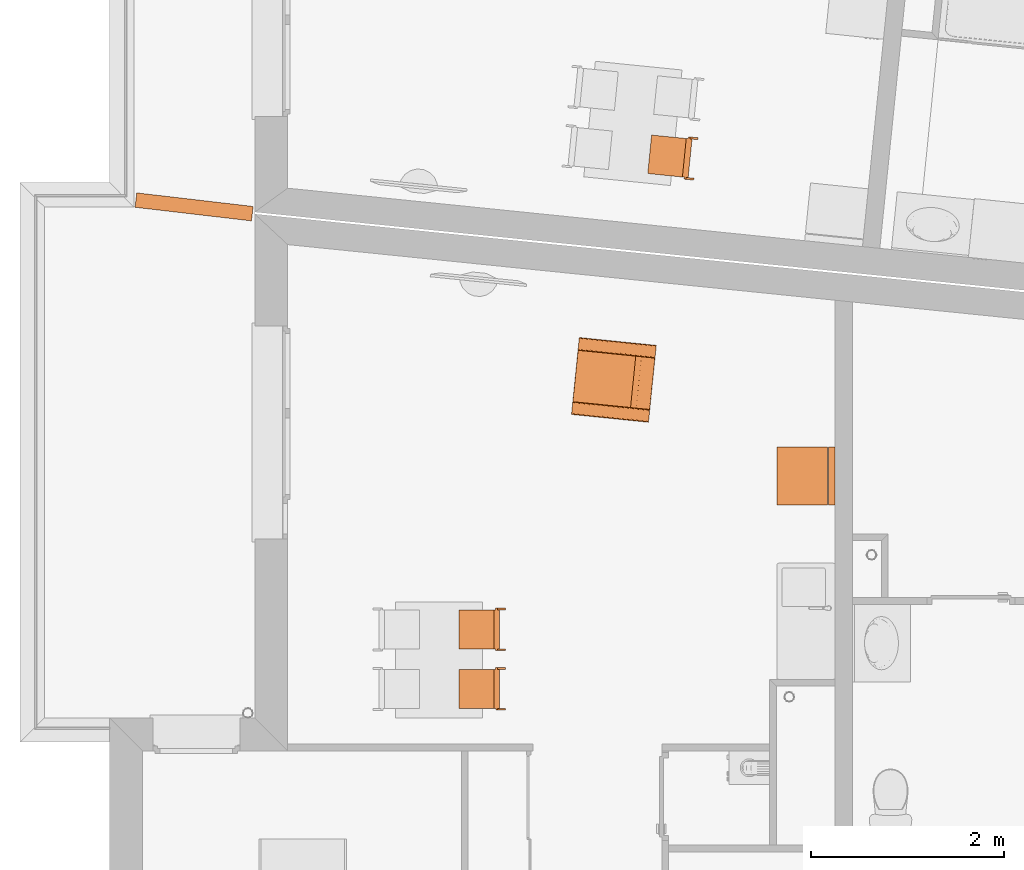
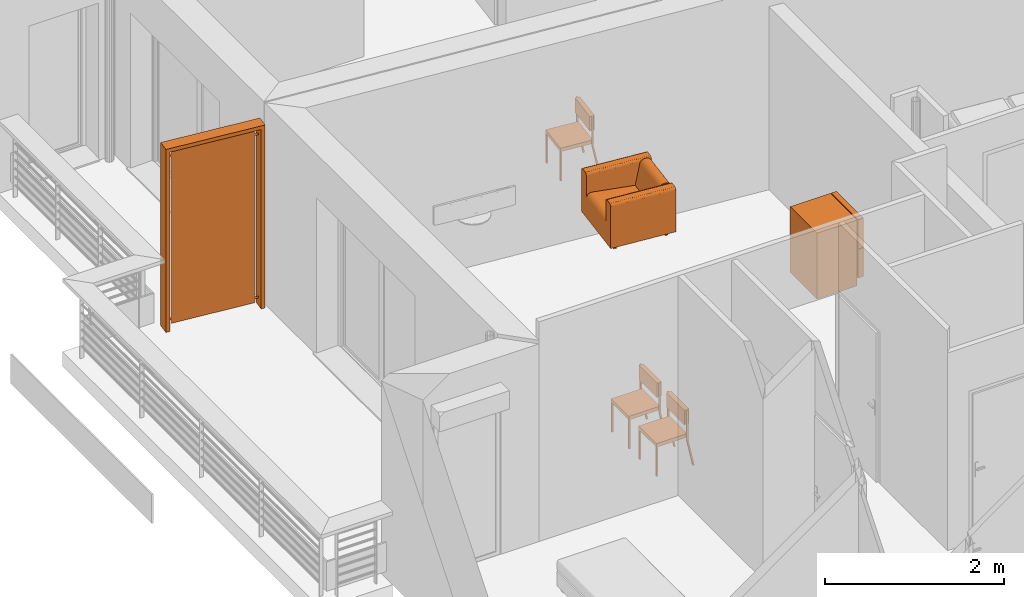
# One storey, part 151 of 164: 6 proxies.
"""IFC2X3 building model written with IfcOpenShell, lengths in millimetres."""

from ifc_helpers import new_model, entity, si_unit, converted_unit, derived_unit, money_unit, direction, frame, origin_with_axes, place, context, subcontext, project, spatial, open_shell, faceted_brep, surface_model, source, transform, mapped, type_object, element, save


model = new_model("IFC2X3")

# Units and contexts
model_context = context("Model", 3, precision=0.01, world=origin_with_axes(), true_north=direction((0.0, 1.0)))
body_context = subcontext(model_context, "Body", "Model", "MODEL_VIEW")
ifc_project = project(units=[si_unit("LENGTHUNIT", "METRE", prefix="MILLI"), si_unit("AREAUNIT", "SQUARE_METRE"), si_unit("VOLUMEUNIT", "CUBIC_METRE"), converted_unit("PLANEANGLEUNIT", "DEGREE", entity("IfcPlaneAngleMeasure", 0.0174532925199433), si_unit("PLANEANGLEUNIT", "RADIAN"), dimensions=[0, 0, 0, 0, 0, 0, 0]), money_unit("USD"), converted_unit("TIMEUNIT", "Year", entity("IfcTimeMeasure", 31557600.0), si_unit("TIMEUNIT", "SECOND"), dimensions=[0, 0, 1, 0, 0, 0, 0]), si_unit("MASSUNIT", "GRAM", prefix="KILO"), si_unit("THERMODYNAMICTEMPERATUREUNIT", "DEGREE_CELSIUS"), si_unit("LUMINOUSINTENSITYUNIT", "LUMEN"), si_unit("ENERGYUNIT", "JOULE", prefix="MEGA"), derived_unit("THERMALCONDUCTANCEUNIT", [(si_unit("POWERUNIT", "WATT"), 1), (si_unit("LENGTHUNIT", "METRE"), -1), (si_unit("THERMODYNAMICTEMPERATUREUNIT", "KELVIN"), -1)]), derived_unit("SPECIFICHEATCAPACITYUNIT", [(si_unit("ENERGYUNIT", "JOULE"), 1), (si_unit("MASSUNIT", "GRAM", prefix="KILO"), -1), (si_unit("THERMODYNAMICTEMPERATUREUNIT", "KELVIN"), -1)]), derived_unit("MASSDENSITYUNIT", [(si_unit("MASSUNIT", "GRAM", prefix="KILO"), 1), (si_unit("VOLUMEUNIT", "CUBIC_METRE"), -1)])], contexts=[model_context])

# Site, building, storey
site_placement = place(None, origin_with_axes())
site = spatial("IfcSite", under=ifc_project, at=site_placement, Name="Site", CompositionType="ELEMENT")
building_placement = place(site_placement, origin_with_axes())
building = spatial("IfcBuilding", under=site, at=building_placement, Name="Bâtiment", CompositionType="ELEMENT")
storey_placement = place(building_placement, frame((0.0, 0.0, 5750.0), z_axis=(0.0, 0.0, 1.0), x_axis=(1.0, 0.0, 0.0)))
storey = spatial("IfcBuildingStorey", under=building, at=storey_placement, Name="Etage1", CompositionType="ELEMENT", Elevation=5750.0)

# Proxies
building_element_proxy_type = type_object("IfcBuildingElementProxyType", PredefinedType="NOTDEFINED")
shared_shape_1 = source(origin_with_axes(), body_context, "Body", "Brep", [
    faceted_brep([(-39.99999978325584, 0.0, 0.0), (-39.99999978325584, 19.99999936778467, 0.0), (-19.99999989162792, 19.99999936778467, 0.0), (-19.99999989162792, 0.0, 0.0), (-39.99999978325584, 0.0, 400.0), (-39.99999978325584, 19.99999936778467, 400.0), (-19.99999989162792, 19.99999936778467, 400.0), (-19.99999989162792, 0.0, 400.0)], [[[0, 1, 2, 3]], [[0, 4, 5, 1]], [[1, 5, 6, 2]], [[2, 6, 7, 3]], [[3, 7, 4, 0]], [[7, 6, 5, 4]]]),
    faceted_brep([(-419.9999977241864, 0.0, 0.0), (-419.9999977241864, 19.99999936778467, 0.0), (-399.9999978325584, 19.99999936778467, 0.0), (-399.9999978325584, 0.0, 0.0), (-419.9999977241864, 0.0, 400.0), (-419.9999977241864, 19.99999936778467, 400.0), (-399.9999978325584, 19.99999936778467, 400.0), (-399.9999978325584, 0.0, 400.0)], [[[0, 1, 2, 3]], [[0, 4, 5, 1]], [[1, 5, 6, 2]], [[2, 6, 7, 3]], [[3, 7, 4, 0]], [[7, 6, 5, 4]]]),
    faceted_brep([(-399.9999978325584, 0.0, 400.0000000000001), (-399.9999978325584, 19.99999936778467, 400.0000000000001), (-39.99999978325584, 19.99999936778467, 400.0000000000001), (-39.99999978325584, 0.0, 400.0000000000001), (-399.9999978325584, 0.0, 420.0000000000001), (-399.9999978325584, 19.99999936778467, 420.0000000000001), (-39.99999978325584, 19.99999936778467, 420.0000000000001), (-39.99999978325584, 0.0, 420.0000000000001)], [[[0, 1, 2, 3]], [[0, 4, 5, 1]], [[1, 5, 6, 2]], [[2, 6, 7, 3]], [[3, 7, 4, 0]], [[7, 6, 5, 4]]]),
    faceted_brep([(-39.99999978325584, 19.99999936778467, 400.0000000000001), (-39.99999978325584, 379.9999879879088, 400.0000000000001), (-19.99999989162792, 379.9999879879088, 400.0000000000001), (-19.99999989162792, 19.99999936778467, 400.0000000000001), (-39.99999978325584, 19.99999936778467, 420.0000000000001), (-39.99999978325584, 379.9999879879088, 420.0000000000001), (-19.99999989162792, 379.9999879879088, 420.0000000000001), (-19.99999989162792, 19.99999936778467, 420.0000000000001)], [[[0, 1, 2, 3]], [[0, 4, 5, 1]], [[1, 5, 6, 2]], [[2, 6, 7, 3]], [[3, 7, 4, 0]], [[7, 6, 5, 4]]]),
    faceted_brep([(-419.9999977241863, 379.9999879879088, 400.0000000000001), (-419.9999977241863, 399.9999873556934, 400.0000000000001), (-19.99999989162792, 399.9999873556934, 400.0000000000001), (-19.99999989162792, 379.9999879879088, 400.0000000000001), (-419.9999977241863, 379.9999879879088, 420.0000000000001), (-419.9999977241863, 399.9999873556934, 420.0000000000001), (-19.99999989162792, 399.9999873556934, 420.0000000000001), (-19.99999989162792, 379.9999879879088, 420.0000000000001)], [[[0, 1, 2, 3]], [[0, 4, 5, 1]], [[1, 5, 6, 2]], [[2, 6, 7, 3]], [[3, 7, 4, 0]], [[7, 6, 5, 4]]]),
    faceted_brep([(-419.9999977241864, 19.99999936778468, 400.0000000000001), (-419.9999977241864, 379.9999879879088, 400.0000000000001), (-399.9999978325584, 379.9999879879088, 400.0000000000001), (-399.9999978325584, 19.99999936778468, 400.0000000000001), (-419.9999977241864, 19.99999936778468, 420.0000000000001), (-419.9999977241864, 379.9999879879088, 420.0000000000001), (-399.9999978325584, 379.9999879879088, 420.0000000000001), (-399.9999978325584, 19.99999936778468, 420.0000000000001)], [[[0, 1, 2, 3]], [[0, 4, 5, 1]], [[1, 5, 6, 2]], [[2, 6, 7, 3]], [[3, 7, 4, 0]], [[7, 6, 5, 4]]]),
    faceted_brep([(-419.9999977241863, 0.0, 400.0), (-419.9999977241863, 399.9999873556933, 400.0), (-19.99999989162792, 399.9999873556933, 400.0), (-19.99999989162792, 0.0, 400.0), (-419.9999977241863, 0.0, 450.0), (-419.9999977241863, 399.9999873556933, 450.0), (-19.99999989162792, 399.9999873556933, 450.0), (-19.99999989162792, 0.0, 450.0)], [[[0, 1, 2, 3]], [[0, 4, 5, 1]], [[1, 5, 6, 2]], [[2, 6, 7, 3]], [[3, 7, 4, 0]], [[7, 6, 5, 4]]]),
    faceted_brep([(-19.99999989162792, 379.9999879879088, 380.0), (-19.99999989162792, 399.9999873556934, 380.0), (0.0, 399.9999873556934, 380.0), (0.0, 379.9999879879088, 380.0), (-19.99999989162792, 379.9999879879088, 780.0), (-19.99999989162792, 399.9999873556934, 780.0), (0.0, 399.9999873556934, 780.0), (0.0, 379.9999879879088, 780.0)], [[[0, 1, 2, 3]], [[0, 4, 5, 1]], [[1, 5, 6, 2]], [[2, 6, 7, 3]], [[3, 7, 4, 0]], [[7, 6, 5, 4]]]),
    faceted_brep([(-439.9999976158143, 379.9999879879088, 380.0), (-439.9999976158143, 399.9999873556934, 380.0), (-419.9999977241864, 399.9999873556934, 380.0), (-419.9999977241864, 379.9999879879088, 380.0), (-439.9999976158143, 379.9999879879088, 780.0), (-439.9999976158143, 399.9999873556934, 780.0), (-419.9999977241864, 399.9999873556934, 780.0), (-419.9999977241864, 379.9999879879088, 780.0)], [[[0, 1, 2, 3]], [[0, 4, 5, 1]], [[1, 5, 6, 2]], [[2, 6, 7, 3]], [[3, 7, 4, 0]], [[7, 6, 5, 4]]]),
    faceted_brep([(-419.9999977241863, 359.999988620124, 580.0000000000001), (-419.9999977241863, 419.9999867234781, 580.0000000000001), (-19.99999989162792, 419.9999867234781, 580.0000000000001), (-19.99999989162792, 359.999988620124, 580.0000000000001), (-419.9999977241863, 359.999988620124, 780.0), (-419.9999977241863, 419.9999867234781, 780.0), (-19.99999989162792, 419.9999867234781, 780.0), (-19.99999989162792, 359.999988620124, 780.0)], [[[0, 1, 2, 3]], [[0, 4, 5, 1]], [[1, 5, 6, 2]], [[2, 6, 7, 3]], [[3, 7, 4, 0]], [[7, 6, 5, 4]]]),
    faceted_brep([(-19.99999989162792, 459.9999854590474, 0.0), (-19.99999989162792, 479.5709559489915, 4.120326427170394), (0.0, 479.5709559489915, 4.120326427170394), (0.0, 459.9999854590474, 0.0), (-19.99999989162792, 379.997669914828, 379.999760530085), (-19.99999989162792, 399.5686404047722, 384.1200869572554), (0.0, 399.5686404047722, 384.1200869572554), (0.0, 379.997669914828, 379.999760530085)], [[[0, 1, 2, 3]], [[0, 4, 5, 1]], [[1, 5, 6, 2]], [[2, 6, 7, 3]], [[3, 7, 4, 0]], [[7, 6, 5, 4]]]),
    faceted_brep([(-439.9999976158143, 459.9999854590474, 0.0), (-439.9999976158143, 479.5709559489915, 4.120326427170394), (-419.9999977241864, 479.5709559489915, 4.120326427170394), (-419.9999977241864, 459.9999854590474, 0.0), (-439.9999976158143, 379.997669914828, 379.999760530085), (-439.9999976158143, 399.5686404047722, 384.1200869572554), (-419.9999977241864, 399.5686404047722, 384.1200869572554), (-419.9999977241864, 379.997669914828, 379.999760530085)], [[[0, 1, 2, 3]], [[0, 4, 5, 1]], [[1, 5, 6, 2]], [[2, 6, 7, 3]], [[3, 7, 4, 0]], [[7, 6, 5, 4]]]),
])
for number, where, z_axis, x_axis, name in (
    (1, (2220245.013109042, -625375.9559364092, 0.0), (0.0, 0.0, 1.0), (0.0005412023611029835, -0.9999998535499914, 0.0), "Obj.-027"),
    (2, (2220245.346016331, -625991.0812512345, 0.0), (0.0, 0.0, 1.0), (0.0005412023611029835, -0.9999998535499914, 0.0), "Obj.-027"),
    (3, (2222194.18132637, -620463.3550186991, 0.0), (0.0, 0.0, 1.0), (-0.1000048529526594, -0.9949869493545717, 0.0), "Obj.-027"),
):
    element("IfcBuildingElementProxy", number, at=place(storey_placement, frame(where, z_axis=z_axis, x_axis=x_axis)), inside=storey, type_object=building_element_proxy_type, Name=name, context=body_context, shape_type="MappedRepresentation", body=[
        mapped(shared_shape_1, transform((0.0, 0.0, 0.0))),
    ])
shared_shape_2 = source(origin_with_axes(), body_context, "Body", "Brep", [
    faceted_brep([(-333.3000000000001, 66.7, 0.0), (-333.3000000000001, 100.0, 0.0), (-300.0000000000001, 100.0, 0.0), (-300.0000000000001, 66.7, 0.0), (-333.3000000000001, 66.7, 66.69999999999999), (-333.3000000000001, 100.0, 66.69999999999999), (-300.0000000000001, 100.0, 66.69999999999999), (-300.0000000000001, 66.7, 66.69999999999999)], [[[0, 1, 2, 3]], [[0, 4, 5, 1]], [[1, 5, 6, 2]], [[2, 6, 7, 3]], [[3, 7, 4, 0]], [[7, 6, 5, 4]]]),
    faceted_brep([(-333.3000000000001, 700.0000000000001, 0.0), (-333.3000000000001, 733.3000000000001, 0.0), (-300.0000000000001, 733.3000000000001, 0.0), (-300.0000000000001, 700.0000000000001, 0.0), (-333.3000000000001, 700.0000000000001, 66.69999999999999), (-333.3000000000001, 733.3000000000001, 66.69999999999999), (-300.0000000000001, 733.3000000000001, 66.69999999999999), (-300.0000000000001, 700.0000000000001, 66.69999999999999)], [[[0, 1, 2, 3]], [[0, 4, 5, 1]], [[1, 5, 6, 2]], [[2, 6, 7, 3]], [[3, 7, 4, 0]], [[7, 6, 5, 4]]]),
    faceted_brep([(300.0000000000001, 66.7, 0.0), (300.0000000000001, 100.0, 0.0), (333.3000000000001, 100.0, 0.0), (333.3000000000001, 66.7, 0.0), (300.0000000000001, 66.7, 66.69999999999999), (300.0000000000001, 100.0, 66.69999999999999), (333.3000000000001, 100.0, 66.69999999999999), (333.3000000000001, 66.7, 66.69999999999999)], [[[0, 1, 2, 3]], [[0, 4, 5, 1]], [[1, 5, 6, 2]], [[2, 6, 7, 3]], [[3, 7, 4, 0]], [[7, 6, 5, 4]]]),
    faceted_brep([(300.0000000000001, 700.0000000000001, 0.0), (300.0000000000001, 733.3000000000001, 0.0), (333.3000000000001, 733.3000000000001, 0.0), (333.3000000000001, 700.0000000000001, 0.0), (300.0000000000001, 700.0000000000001, 66.69999999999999), (300.0000000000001, 733.3000000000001, 66.69999999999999), (333.3000000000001, 733.3000000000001, 66.69999999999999), (333.3000000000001, 700.0000000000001, 66.69999999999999)], [[[0, 1, 2, 3]], [[0, 4, 5, 1]], [[1, 5, 6, 2]], [[2, 6, 7, 3]], [[3, 7, 4, 0]], [[7, 6, 5, 4]]]),
    faceted_brep([(-266.7, 800.0, 66.69999999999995), (-266.7, 0.0, 66.69999999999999), (-400.033, 0.0, 66.69999999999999), (-400.033, 800.0, 66.69999999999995), (-266.7, 800.0, 67.19999999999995), (-266.7, 0.0, 67.19999999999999), (-266.7, 0.0, 633.37), (-266.7, 0.0, 636.2859999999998), (-267.713, 0.0, 642.029), (-269.707, 0.0, 647.5099999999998), (-272.623, 0.0, 652.5599999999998), (-276.372, 0.0, 657.0279999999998), (-280.84, 0.0, 660.7769999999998), (-285.89, 0.0, 663.6929999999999), (-291.371, 0.0, 665.6869999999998), (-297.114, 0.0, 666.6999999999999), (-300.03, 0.0, 666.6999999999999), (-366.703, 0.0, 666.6999999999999), (-369.619, 0.0, 666.6999999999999), (-375.363, 0.0, 665.6869999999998), (-380.843, 0.0, 663.6929999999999), (-385.894, 0.0, 660.7769999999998), (-390.361, 0.0, 657.0279999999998), (-394.11, 0.0, 652.5599999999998), (-397.026, 0.0, 647.5099999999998), (-399.021, 0.0, 642.029), (-400.033, 0.0, 636.2859999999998), (-400.033, 0.0, 633.37), (-400.033, 800.0, 633.37), (-400.033, 800.0, 636.2859999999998), (-399.021, 800.0, 642.029), (-397.026, 800.0, 647.5099999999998), (-394.11, 800.0, 652.5599999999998), (-390.361, 800.0, 657.0279999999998), (-385.894, 800.0, 660.7769999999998), (-380.843, 800.0, 663.6929999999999), (-375.363, 800.0, 665.6869999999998), (-369.619, 800.0, 666.6999999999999), (-366.703, 800.0, 666.6999999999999), (-300.03, 800.0, 666.6999999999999), (-297.114, 800.0, 666.6999999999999), (-291.371, 800.0, 665.6869999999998), (-285.89, 800.0, 663.6929999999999), (-280.84, 800.0, 660.7769999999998), (-276.372, 800.0, 657.0279999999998), (-272.623, 800.0, 652.5599999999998), (-269.707, 800.0, 647.5099999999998), (-267.713, 800.0, 642.029), (-266.7, 800.0, 636.2859999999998), (-266.7, 800.0, 633.37)], [[[0, 1, 2, 3]], [[4, 5, 1, 0]], [[1, 5, 6, 7, 8, 9, 10, 11, 12, 13, 14, 15, 16, 17, 18, 19, 20, 21, 22, 23, 24, 25, 26, 27, 2]], [[3, 2, 27, 28]], [[0, 3, 28, 29, 30, 31, 32, 33, 34, 35, 36, 37, 38, 39, 40, 41, 42, 43, 44, 45, 46, 47, 48, 49, 4]], [[49, 6, 5, 4]], [[48, 7, 6, 49]], [[47, 8, 7, 48]], [[46, 9, 8, 47]], [[45, 10, 9, 46]], [[44, 11, 10, 45]], [[43, 12, 11, 44]], [[42, 13, 12, 43]], [[41, 14, 13, 42]], [[40, 15, 14, 41]], [[39, 16, 15, 40]], [[38, 17, 16, 39]], [[37, 18, 17, 38]], [[36, 19, 18, 37]], [[35, 20, 19, 36]], [[34, 21, 20, 35]], [[33, 22, 21, 34]], [[32, 23, 22, 33]], [[31, 24, 23, 32]], [[30, 25, 24, 31]], [[29, 26, 25, 30]], [[28, 27, 26, 29]]]),
    faceted_brep([(400.0, 800.0, 66.69999999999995), (400.0, 0.0, 66.69999999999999), (266.667, 0.0, 66.69999999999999), (266.667, 800.0, 66.69999999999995), (400.0, 800.0, 67.19999999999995), (400.0, 0.0, 67.19999999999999), (400.0, 0.0, 633.37), (400.0, 0.0, 636.2859999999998), (398.987, 0.0, 642.029), (396.9930000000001, 0.0, 647.5099999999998), (394.077, 0.0, 652.5599999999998), (390.328, 0.0, 657.0279999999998), (385.86, 0.0, 660.7769999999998), (380.8100000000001, 0.0, 663.6929999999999), (375.329, 0.0, 665.6869999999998), (369.586, 0.0, 666.6999999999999), (366.67, 0.0, 666.6999999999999), (299.997, 0.0, 666.6999999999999), (297.081, 0.0, 666.6999999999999), (291.337, 0.0, 665.6869999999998), (285.857, 0.0, 663.6929999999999), (280.806, 0.0, 660.7769999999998), (276.339, 0.0, 657.0279999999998), (272.59, 0.0, 652.5599999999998), (269.674, 0.0, 647.5099999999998), (267.679, 0.0, 642.029), (266.667, 0.0, 636.2859999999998), (266.667, 0.0, 633.37), (266.667, 800.0, 633.37), (266.667, 800.0, 636.2859999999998), (267.679, 800.0, 642.029), (269.674, 800.0, 647.5099999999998), (272.59, 800.0, 652.5599999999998), (276.339, 800.0, 657.0279999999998), (280.806, 800.0, 660.7769999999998), (285.857, 800.0, 663.6929999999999), (291.337, 800.0, 665.6869999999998), (297.081, 800.0, 666.6999999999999), (299.997, 800.0, 666.6999999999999), (366.67, 800.0, 666.6999999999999), (369.586, 800.0, 666.6999999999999), (375.329, 800.0, 665.6869999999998), (380.8100000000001, 800.0, 663.6929999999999), (385.86, 800.0, 660.7769999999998), (390.328, 800.0, 657.0279999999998), (394.077, 800.0, 652.5599999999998), (396.9930000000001, 800.0, 647.5099999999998), (398.987, 800.0, 642.029), (400.0, 800.0, 636.2859999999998), (400.0, 800.0, 633.37)], [[[0, 1, 2, 3]], [[4, 5, 1, 0]], [[1, 5, 6, 7, 8, 9, 10, 11, 12, 13, 14, 15, 16, 17, 18, 19, 20, 21, 22, 23, 24, 25, 26, 27, 2]], [[3, 2, 27, 28]], [[0, 3, 28, 29, 30, 31, 32, 33, 34, 35, 36, 37, 38, 39, 40, 41, 42, 43, 44, 45, 46, 47, 48, 49, 4]], [[49, 6, 5, 4]], [[48, 7, 6, 49]], [[47, 8, 7, 48]], [[46, 9, 8, 47]], [[45, 10, 9, 46]], [[44, 11, 10, 45]], [[43, 12, 11, 44]], [[42, 13, 12, 43]], [[41, 14, 13, 42]], [[40, 15, 14, 41]], [[39, 16, 15, 40]], [[38, 17, 16, 39]], [[37, 18, 17, 38]], [[36, 19, 18, 37]], [[35, 20, 19, 36]], [[34, 21, 20, 35]], [[33, 22, 21, 34]], [[32, 23, 22, 33]], [[31, 24, 23, 32]], [[30, 25, 24, 31]], [[29, 26, 25, 30]], [[28, 27, 26, 29]]]),
    faceted_brep([(266.6667, 0.0, 66.69999999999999), (-266.6333, 0.0, 66.69999999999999), (-266.6333, 800.0, 66.69999999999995), (266.6667, 800.0, 66.69999999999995), (266.6667, 0.0, 67.2), (-266.6333, 0.0, 67.2), (-266.6333, 0.0, 325.5449999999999), (-266.6333, -0.2359999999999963, 327.1109999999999), (-266.6333, 1.052000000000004, 338.7049999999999), (-266.6333, 4.334000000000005, 349.8989999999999), (-266.6333, 9.510000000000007, 360.3539999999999), (-266.6333, 16.42300000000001, 369.7509999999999), (-266.6333, 24.86200000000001, 377.8049999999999), (-266.6333, 34.57200000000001, 384.271), (-266.6333, 45.25800000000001, 388.9519999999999), (-266.6333, 56.59300000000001, 391.707), (-266.6333, 68.23500000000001, 392.4519999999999), (-266.6333, 74.03200000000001, 391.808), (-266.6333, 600.0000000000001, 333.3669999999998), (-266.6333, 600.0980000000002, 333.8569999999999), (-266.6333, 655.9480000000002, 613.1049999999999), (-266.6333, 656.6790000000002, 617.351), (-266.6333, 660.6690000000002, 628.314), (-266.6333, 666.5020000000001, 638.4159999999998), (-266.6333, 674.0000000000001, 647.3529999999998), (-266.6333, 682.937, 654.8509999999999), (-266.6333, 693.0390000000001, 660.6839999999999), (-266.6333, 704.0020000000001, 664.6739999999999), (-266.6333, 715.4900000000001, 666.6999999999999), (-266.6333, 721.3230000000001, 666.6999999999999), (-266.6333, 733.33, 666.6999999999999), (-266.6333, 739.163, 666.6999999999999), (-266.6333, 750.6510000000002, 664.6739999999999), (-266.6333, 761.614, 660.6839999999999), (-266.6333, 771.716, 654.8509999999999), (-266.6333, 780.653, 647.3529999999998), (-266.6333, 788.1510000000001, 638.4159999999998), (-266.6333, 793.984, 628.314), (-266.6333, 797.974, 617.351), (-266.6333, 800.0, 605.8629999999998), (-266.6333, 800.0, 600.0299999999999), (266.6667, 800.0, 600.0299999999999), (266.6667, 800.0, 605.8629999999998), (266.6667, 797.974, 617.351), (266.6667, 793.984, 628.314), (266.6667, 788.1510000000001, 638.4159999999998), (266.6667, 780.653, 647.3529999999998), (266.6667, 771.716, 654.8509999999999), (266.6667, 761.614, 660.6839999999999), (266.6667, 750.6510000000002, 664.6739999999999), (266.6667, 739.163, 666.6999999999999), (266.6667, 733.33, 666.6999999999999), (266.6667, 721.3230000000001, 666.6999999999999), (266.6667, 715.4900000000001, 666.6999999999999), (266.6667, 704.0020000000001, 664.6739999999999), (266.6667, 693.0390000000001, 660.6839999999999), (266.6667, 682.937, 654.8509999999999), (266.6667, 674.0000000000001, 647.3529999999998), (266.6667, 666.5020000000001, 638.4159999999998), (266.6667, 660.6690000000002, 628.314), (266.6667, 656.6790000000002, 617.351), (266.6667, 655.9480000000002, 613.1049999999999), (266.6667, 600.0980000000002, 333.8569999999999), (266.6667, 600.0000000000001, 333.3669999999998), (266.6667, 74.03200000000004, 391.808), (266.6667, 68.23500000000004, 392.4519999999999), (266.6667, 56.59300000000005, 391.707), (266.6667, 45.25800000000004, 388.9519999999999), (266.6667, 34.57200000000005, 384.271), (266.6667, 24.86200000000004, 377.8049999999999), (266.6667, 16.42300000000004, 369.7509999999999), (266.6667, 9.510000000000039, 360.3539999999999), (266.6667, 4.334000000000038, 349.8989999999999), (266.6667, 1.052000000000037, 338.7049999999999), (266.6667, -0.2359999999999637, 327.1109999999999), (266.6667, 0.0, 325.5449999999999)], [[[0, 1, 2, 3]], [[4, 5, 1, 0]], [[1, 5, 6, 7, 8, 9, 10, 11, 12, 13, 14, 15, 16, 17, 18, 19, 20, 21, 22, 23, 24, 25, 26, 27, 28, 29, 30, 31, 32, 33, 34, 35, 36, 37, 38, 39, 40, 2]], [[3, 2, 40, 41]], [[0, 3, 41, 42, 43, 44, 45, 46, 47, 48, 49, 50, 51, 52, 53, 54, 55, 56, 57, 58, 59, 60, 61, 62, 63, 64, 65, 66, 67, 68, 69, 70, 71, 72, 73, 74, 75, 4]], [[75, 6, 5, 4]], [[74, 7, 6, 75]], [[73, 8, 7, 74]], [[72, 9, 8, 73]], [[71, 10, 9, 72]], [[70, 11, 10, 71]], [[69, 12, 11, 70]], [[68, 13, 12, 69]], [[67, 14, 13, 68]], [[66, 15, 14, 67]], [[65, 16, 15, 66]], [[64, 17, 16, 65]], [[63, 18, 17, 64]], [[62, 19, 18, 63]], [[61, 20, 19, 62]], [[60, 21, 20, 61]], [[59, 22, 21, 60]], [[58, 23, 22, 59]], [[57, 24, 23, 58]], [[56, 25, 24, 57]], [[55, 26, 25, 56]], [[54, 27, 26, 55]], [[53, 28, 27, 54]], [[52, 29, 28, 53]], [[51, 30, 29, 52]], [[50, 31, 30, 51]], [[49, 32, 31, 50]], [[48, 33, 32, 49]], [[47, 34, 33, 48]], [[46, 35, 34, 47]], [[45, 36, 35, 46]], [[44, 37, 36, 45]], [[43, 38, 37, 44]], [[42, 39, 38, 43]], [[41, 40, 39, 42]]]),
])
proxy_1_placement = place(storey_placement, frame((2221448.535481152, -622536.1302630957, 800.0000000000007), z_axis=(0.0, 0.0, 1.0), x_axis=(-0.1011032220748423, -0.9948759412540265, 0.0)))
element("IfcBuildingElementProxy", 4, at=proxy_1_placement, inside=storey, type_object=building_element_proxy_type, Name="Obj.-034", context=body_context, shape_type="MappedRepresentation", body=[
    mapped(shared_shape_2, transform((0.0, 0.0, 0.0))),
])
shared_shape_3 = source(origin_with_axes(), body_context, "Body", "SurfaceModel", [
    faceted_brep([(0.0, 80.0, 100.0), (600.0, 80.0, 100.0), (600.0, 80.0, 900.0), (0.0, 80.0, 900.0), (0.0, 600.0, 100.0), (600.0, 600.0, 100.0), (600.0, 600.0, 900.0), (0.0, 600.0, 900.0)], [[[0, 1, 2, 3]], [[0, 4, 5, 1]], [[1, 5, 6, 2]], [[3, 2, 6, 7]], [[4, 0, 3, 7]], [[5, 4, 7, 6]]]),
    faceted_brep([(0.0, 80.0, 0.0), (600.0, 80.0, 0.0), (600.0, 80.0, 100.0), (0.0, 80.0, 100.0), (0.0, 600.0, 0.0), (600.0, 600.0, 0.0), (600.0, 600.0, 100.0), (0.0, 600.0, 100.0)], [[[0, 1, 2, 3]], [[0, 4, 5, 1]], [[1, 5, 6, 2]], [[3, 2, 6, 7]], [[4, 0, 3, 7]], [[5, 4, 7, 6]]]),
    faceted_brep([(0.0, 70.0, 100.0), (600.0, 70.0, 100.0), (600.0, 0.0, 100.0), (0.0, 0.0, 100.0), (0.0, 70.00000000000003, 494.0), (600.0, 70.00000000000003, 494.0), (600.0, 0.0, 494.0), (0.0, 0.0, 494.0)], [[[0, 1, 2, 3]], [[0, 4, 5, 1]], [[1, 5, 6, 2]], [[3, 2, 6, 7]], [[4, 0, 3, 7]], [[5, 4, 7, 6]]]),
    faceted_brep([(0.0, 70.0, 500.0), (600.0, 70.0, 500.0), (600.0, 0.0, 500.0), (0.0, 0.0, 500.0), (0.0, 70.00000000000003, 900.0), (600.0, 70.00000000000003, 900.0), (600.0, 0.0, 900.0), (0.0, 0.0, 900.0)], [[[0, 1, 2, 3]], [[0, 4, 5, 1]], [[1, 5, 6, 2]], [[3, 2, 6, 7]], [[4, 0, 3, 7]], [[5, 4, 7, 6]]]),
    surface_model("IfcShellBasedSurfaceModel", [(600.0, -30.0, 300.0000000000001), (600.0, -30.0, 494.0000000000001), (600.0, 0.0, 494.0000000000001), (600.0, 0.0, 300.0000000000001)], [open_shell([[[0, 1, 2, 3]]])]),
    surface_model("IfcShellBasedSurfaceModel", [(600.0, -30.0, 300.0000000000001), (600.0, -30.0, 494.0000000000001), (570.0, -30.0, 494.0000000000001), (570.0, -30.0, 300.0000000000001)], [open_shell([[[0, 1, 2, 3]]])]),
    surface_model("IfcShellBasedSurfaceModel", [(600.0, -30.0, 500.0), (600.0, -30.0, 700.0), (600.0, 0.0, 700.0), (600.0, 0.0, 500.0)], [open_shell([[[0, 1, 2, 3]]])]),
    surface_model("IfcShellBasedSurfaceModel", [(600.0, -30.0, 500.0), (600.0, -30.0, 700.0), (570.0, -30.0, 700.0), (570.0, -30.0, 500.0)], [open_shell([[[0, 1, 2, 3]]])]),
])
proxy_2_placement = place(storey_placement, frame((2224132.33388806, -623871.2209312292, 0.0), z_axis=(0.0, 0.0, 1.0), x_axis=(0.0, 1.0, 0.0)))
element("IfcBuildingElementProxy", 5, at=proxy_2_placement, inside=storey, type_object=building_element_proxy_type, Name="Obj.-019", context=body_context, shape_type="MappedRepresentation", body=[
    mapped(shared_shape_3, transform((0.0, 0.0, 0.0))),
])
shared_shape_4 = source(origin_with_axes(), body_context, "Body", "SurfaceModel", [
    faceted_brep([(1210.868362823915, 0.0, 2449.999999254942), (0.0, 0.0, 2449.999999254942), (0.0, 150.000000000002, 2449.999999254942), (1210.868362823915, 150.000000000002, 2449.999999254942), (1210.868362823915, 0.0, 2500.0), (0.0, 0.0, 2500.0), (0.0, 150.000000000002, 2500.0), (1210.868362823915, 150.000000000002, 2500.0)], [[[0, 1, 2, 3]], [[1, 0, 4, 5]], [[2, 1, 5, 6]], [[3, 2, 6, 7]], [[0, 3, 7, 4]], [[5, 4, 7, 6]]]),
    faceted_brep([(50.00000074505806, 0.0, 0.0), (0.0, 0.0, 0.0), (0.0, 150.000000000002, 0.0), (50.00000074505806, 150.000000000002, 0.0), (50.00000074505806, 0.0, 2449.999999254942), (0.0, 0.0, 2449.999999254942), (0.0, 150.000000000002, 2449.999999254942), (50.00000074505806, 150.000000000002, 2449.999999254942)], [[[0, 1, 2, 3]], [[1, 0, 4, 5]], [[2, 1, 5, 6]], [[3, 2, 6, 7]], [[0, 3, 7, 4]], [[5, 4, 7, 6]]]),
    faceted_brep([(1210.868362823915, 0.0, 0.0), (1160.868362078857, 0.0, 0.0), (1160.868362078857, 150.000000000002, 0.0), (1210.868362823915, 150.000000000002, 0.0), (1210.868362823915, 0.0, 2449.999999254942), (1160.868362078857, 0.0, 2449.999999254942), (1160.868362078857, 150.000000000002, 2449.999999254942), (1210.868362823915, 150.000000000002, 2449.999999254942)], [[[0, 1, 2, 3]], [[1, 0, 4, 5]], [[2, 1, 5, 6]], [[3, 2, 6, 7]], [[0, 3, 7, 4]], [[5, 4, 7, 6]]]),
    surface_model("IfcShellBasedSurfaceModel", [(100.0000007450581, 75.00000000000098, 50.0), (1110.868362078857, 75.00000000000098, 50.0), (1110.868362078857, 75.00000000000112, 2399.999999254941), (100.0000007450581, 75.00000000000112, 2399.999999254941)], [open_shell([[[0, 1, 2, 3]]])]),
    surface_model("IfcShellBasedSurfaceModel", [(50.00000074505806, 75.00000000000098, 100.0), (120.0000007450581, 75.00000000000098, 100.0), (120.0000007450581, 75.00000000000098, 130.0), (50.00000074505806, 75.00000000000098, 130.0)], [open_shell([[[0, 1, 2, 3]]])]),
    surface_model("IfcShellBasedSurfaceModel", [(50.00000074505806, 75.00000000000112, 2329.999999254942), (120.0000007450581, 75.00000000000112, 2329.999999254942), (120.0000007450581, 75.00000000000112, 2359.999999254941), (50.00000074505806, 75.00000000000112, 2359.999999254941)], [open_shell([[[0, 1, 2, 3]]])]),
    surface_model("IfcShellBasedSurfaceModel", [(1090.868362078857, 75.00000000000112, 2329.999999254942), (1160.868362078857, 75.00000000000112, 2329.999999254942), (1160.868362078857, 75.00000000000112, 2359.999999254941), (1090.868362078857, 75.00000000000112, 2359.999999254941)], [open_shell([[[0, 1, 2, 3]]])]),
    surface_model("IfcShellBasedSurfaceModel", [(1090.868362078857, 75.00000000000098, 99.99999999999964), (1160.868362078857, 75.00000000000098, 99.99999999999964), (1160.868362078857, 75.00000000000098, 129.9999999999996), (1090.868362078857, 75.00000000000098, 129.9999999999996)], [open_shell([[[0, 1, 2, 3]]])]),
])
proxy_3_placement = place(storey_placement, frame((2216897.182037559, -620792.3989135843, 0.0), z_axis=(0.0, 0.0, 1.0), x_axis=(0.9932467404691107, -0.1160211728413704, 0.0)))
element("IfcBuildingElementProxy", 6, at=proxy_3_placement, inside=storey, type_object=building_element_proxy_type, Name="Obj.-034", context=body_context, shape_type="MappedRepresentation", body=[
    mapped(shared_shape_4, transform((0.0, 0.0, 0.0))),
])

save(model, "model.ifc")
